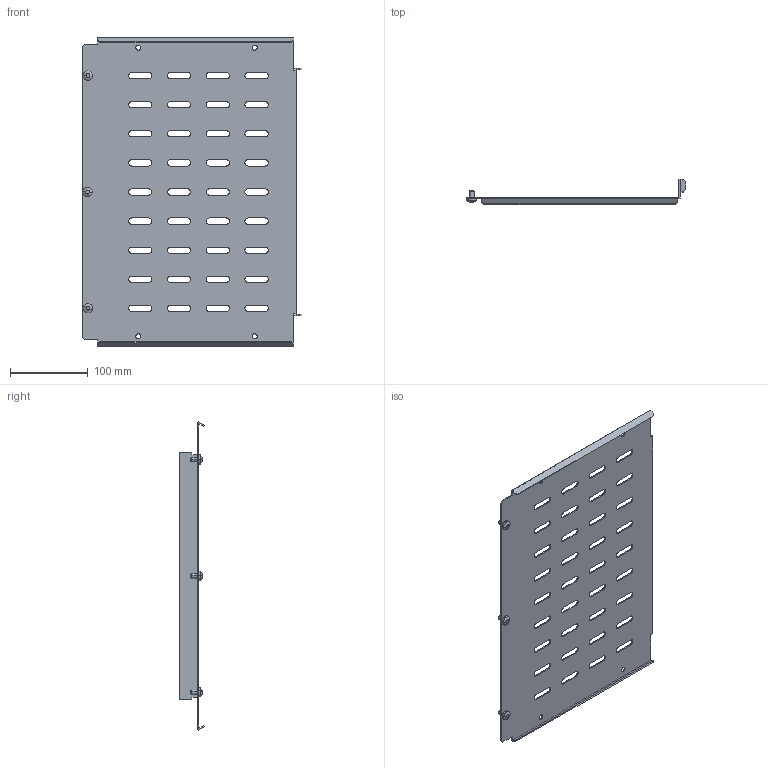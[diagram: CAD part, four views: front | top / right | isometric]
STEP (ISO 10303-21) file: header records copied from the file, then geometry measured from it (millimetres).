
FILE_DESCRIPTION (( 'STEP AP214' ), '1' );
FILE_NAME ('FO-00-SWFÑ-040 Ïåðåãîðîäêà ñåêöèîíèðîâàíèÿ çàäíÿÿ äëÿ âåðòèêàëüíîãî êàáåëüíîãî îòñåêà âûñîòà 400 ìì â øêàô øèðèíîé 600 ìì.STEP', '2025-08-13T12:56:18', ( '' ), ( '' ), 'SwSTEP 2.0', 'SolidWorks 2023', '' );
FILE_SCHEMA (( 'AUTOMOTIVE_DESIGN' ));
Length unit declared in the file: millimetre
Products named in the file (1): FO-00-SWFС-040 Перегородка секционирования задняя для вертикального кабельного отсека высота 400 мм в шкаф шириной 600 мм
Bounding box: 283.5 x 31.66 x 397.2 mm (x, y, z)
Volume: 169638.9 mm3; surface area: 230980.8 mm2
Topology: 1 solids, 1 shells, 299 faces, 855 edges, 564 vertices
Faces by surface type: cylinder 143, plane 138, torus 6, cone 6, sphere 6
Entity records: 10072 total; most frequent: CARTESIAN_POINT 1920, ORIENTED_EDGE 1710, DIRECTION 1669, EDGE_CURVE 855, AXIS2_PLACEMENT_3D 565, VERTEX_POINT 564, VECTOR 539, LINE 539
